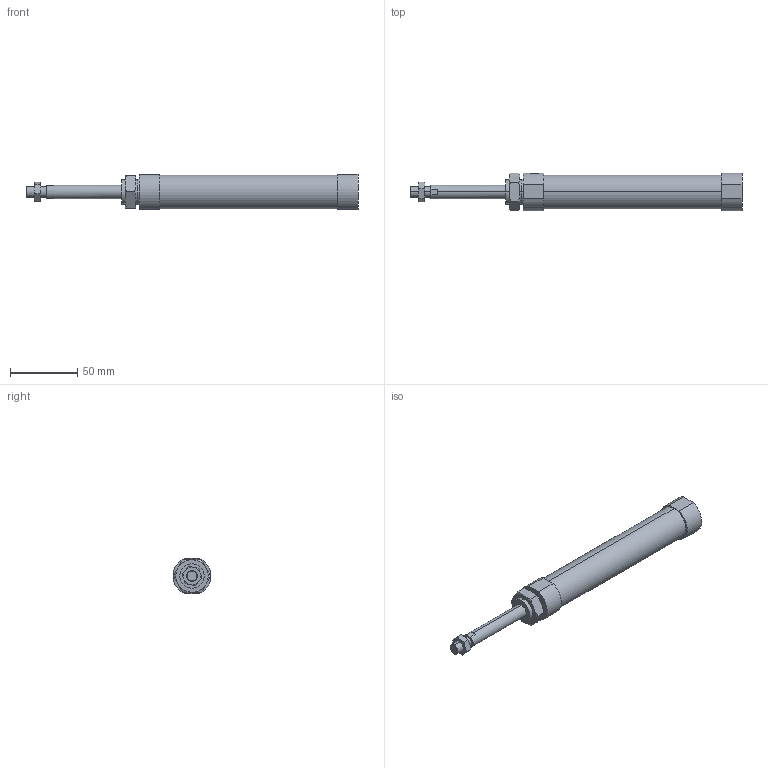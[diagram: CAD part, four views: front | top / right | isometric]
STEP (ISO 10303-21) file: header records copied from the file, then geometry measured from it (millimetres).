
FILE_DESCRIPTION (( 'STEP AP203' ), '1' );
FILE_NAME ('JGND0-20-50-N.STEP', '2016-08-04T02:07:53', ( '' ), ( '' ), 'SwSTEP 2.0', 'SolidWorks 2014', '' );
FILE_SCHEMA (( 'CONFIG_CONTROL_DESIGN' ));
Length unit declared in the file: millimetre
Products named in the file (4): JGND0-20-50-N; J#0-20-50(P)
Assembly tree (3 placements, depth 2):
  JGND0-20-50-N
    J#0-20-50(P)
    (unnamed)
    (unnamed)
Bounding box: 246 x 28 x 26 mm (x, y, z)
Volume: 93369.8 mm3; surface area: 19784.2 mm2
Topology: 3 solids, 3 shells, 81 faces, 176 edges, 108 vertices
Faces by surface type: plane 33, torus 24, cylinder 20, cone 4
Entity records: 2900 total; most frequent: CARTESIAN_POINT 761, DIRECTION 366, ORIENTED_EDGE 352, EDGE_CURVE 176, AXIS2_PLACEMENT_3D 157, VERTEX_POINT 108, EDGE_LOOP 92, FACE_OUTER_BOUND 81
